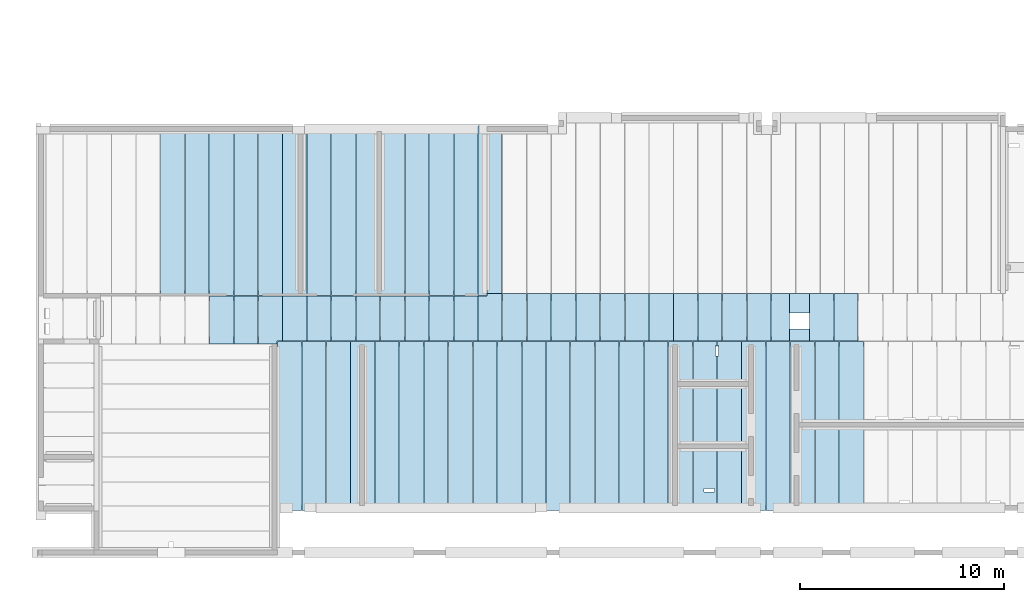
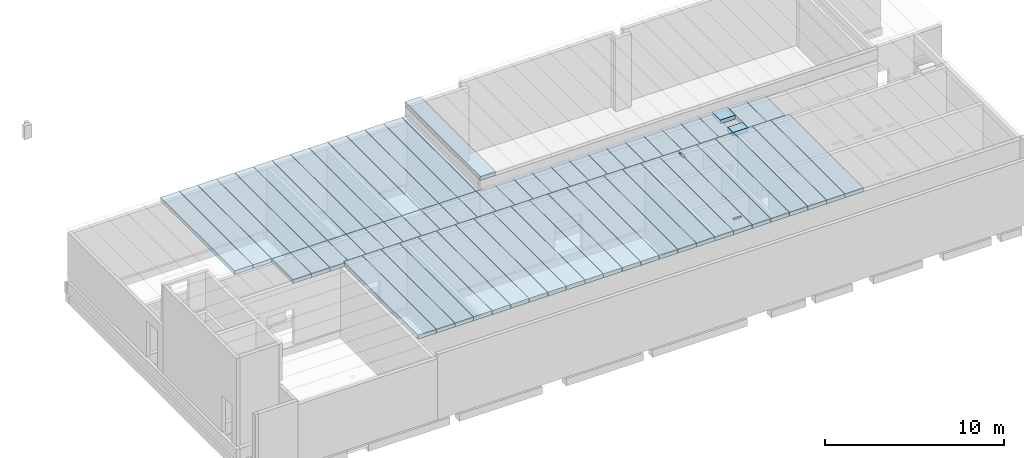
# One storey, part 9 of 24: 67 slabs.
"""IFC2X3 building model written with IfcOpenShell, lengths in metres."""

from ifc_helpers import new_model, entity, si_unit, converted_unit, derived_unit, frame, frame_2d, origin, origin_with_axes, place, context, subcontext, project, spatial, polyline, rectangle, outline, extrude, material, element, save


model = new_model("IFC2X3")

# Units and contexts
model_context = context("Model", 3, precision=1e-05, world=origin())
body_context = subcontext(model_context, "Body", "Model", "MODEL_VIEW")
ifc_project = project(units=[si_unit("LENGTHUNIT", "METRE"), si_unit("AREAUNIT", "SQUARE_METRE"), si_unit("VOLUMEUNIT", "CUBIC_METRE"), si_unit("MASSUNIT", "GRAM", prefix="KILO"), converted_unit("PLANEANGLEUNIT", "DEGREE", entity("IfcPlaneAngleMeasure", 0.0174532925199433), si_unit("PLANEANGLEUNIT", "RADIAN"), dimensions=[0, 0, 0, 0, 0, 0, 0]), derived_unit("THERMALTRANSMITTANCEUNIT", [(si_unit("POWERUNIT", "WATT"), 1), (si_unit("THERMODYNAMICTEMPERATUREUNIT", "KELVIN"), -1), (si_unit("LENGTHUNIT", "METRE"), -2)]), derived_unit("VOLUMETRICFLOWRATEUNIT", [(si_unit("LENGTHUNIT", "METRE"), 3), (converted_unit("TIMEUNIT", "hour", entity("IfcTimeMeasure", 3600.0), si_unit("TIMEUNIT", "SECOND"), dimensions=[0, 0, 1, 0, 0, 0, 0]), -1), (si_unit("LENGTHUNIT", "METRE"), -1)])], contexts=[model_context])

# Site, building, storey
site_placement = place(None, origin())
site = spatial("IfcSite", under=ifc_project, at=site_placement, Name="TWP_Speiseverteilzentrum SBW VZ II", CompositionType="ELEMENT")
building_placement = place(site_placement, origin())
building = spatial("IfcBuilding", under=site, at=building_placement, Name="Speiseverteilzentrum SBW VZ II", CompositionType="ELEMENT")
storey_placement = place(building_placement, frame((0.0, 0.0, 0.6957)))
storey = spatial("IfcBuildingStorey", under=building, at=storey_placement, Name="EG_Technik_FFB", CompositionType="ELEMENT", Elevation=0.6957)

# Slabs
ifc_material_1 = material(Name="Stahlbetonfertigteil")
slab_1_placement = place(storey_placement, frame((99.1000000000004, 40.0899999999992, 4.0)))
element("IfcSlab", 1, at=slab_1_placement, inside=storey, material=ifc_material_1, Name="Spannbetonhohldecke", PredefinedType="FLOOR", context=body_context, shape_type="SweptSolid", body=[
    extrude(rectangle(XDim=2.35, YDim=1.18, at=frame_2d((0.59, -1.175), x_axis=(0.0, -1.0))), frame((0.0, 2.35, 0.0), z_axis=(0.0, 0.0, 1.0), x_axis=(1.0, 0.0, 0.0)), (0.0, 0.0, 1.0), 0.265),
])
ifc_material_2 = material(Name="Stahlbetonfertigteil")
slab_2_placement = place(storey_placement, frame((92.8400000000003, 31.7699999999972, 4.0)))
element("IfcSlab", 2, at=slab_2_placement, inside=storey, material=ifc_material_2, Name="Spannbetonhohldecke", PredefinedType="FLOOR", context=body_context, shape_type="SweptSolid", body=[
    extrude(rectangle(XDim=8.30000000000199, YDim=1.18, at=frame_2d((0.59, -4.150000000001), x_axis=(0.0, -1.0))), frame((0.0, 8.30000000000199, 0.0), z_axis=(0.0, 0.0, 1.0), x_axis=(1.0, 0.0, 0.0)), (0.0, 0.0, 1.0), 0.265),
])
ifc_material_3 = material(Name="Stahlbetonfertigteil")
slab_3_placement = place(storey_placement, frame((90.8800000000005, 42.1999999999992, 5.0)))
element("IfcSlab", 3, at=slab_3_placement, inside=storey, material=ifc_material_3, Name="Spannbetonhohldecke", PredefinedType="FLOOR", context=body_context, shape_type="SweptSolid", body=[
    extrude(rectangle(XDim=8.43000000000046, YDim=0.999999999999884, at=frame_2d((0.499999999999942, -4.21500000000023), x_axis=(0.0, -1.0))), frame((0.0, 8.43000000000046, 0.0), z_axis=(0.0, 0.0, 1.0), x_axis=(1.0, 0.0, 0.0)), (0.0, 0.0, 1.0), 0.265),
])
ifc_material_4 = material(Name="Stahlbetonfertigteil")
slab_4_placement = place(storey_placement, frame((97.9000000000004, 40.0899999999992, 4.0)))
element("IfcSlab", 4, at=slab_4_placement, inside=storey, material=ifc_material_4, Name="Spannbetonhohldecke", PredefinedType="FLOOR", context=body_context, shape_type="SweptSolid", body=[
    extrude(rectangle(XDim=2.35, YDim=1.18, at=frame_2d((0.59, -1.175), x_axis=(0.0, -1.0))), frame((0.0, 2.35, 0.0), z_axis=(0.0, 0.0, 1.0), x_axis=(1.0, 0.0, 0.0)), (0.0, 0.0, 1.0), 0.265),
])
ifc_material_5 = material(Name="Stahlbetonfertigteil")
slab_5_placement = place(storey_placement, frame((78.7000000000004, 39.9599999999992, 4.0)))
element("IfcSlab", 5, at=slab_5_placement, inside=storey, material=ifc_material_5, Name="Spannbetonhohldecke", PredefinedType="FLOOR", context=body_context, shape_type="SweptSolid", body=[
    extrude(rectangle(XDim=2.35, YDim=1.18, at=frame_2d((0.59, -1.175), x_axis=(0.0, -1.0))), frame((0.0, 2.35, 0.0), z_axis=(0.0, 0.0, 1.0), x_axis=(1.0, 0.0, 0.0)), (0.0, 0.0, 1.0), 0.265),
])
ifc_material_6 = material(Name="Stahlbetonfertigteil")
slab_6_placement = place(storey_placement, frame((84.4400000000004, 31.7699999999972, 4.0)))
element("IfcSlab", 6, at=slab_6_placement, inside=storey, material=ifc_material_6, Name="Spannbetonhohldecke", PredefinedType="FLOOR", context=body_context, shape_type="SweptSolid", body=[
    extrude(rectangle(XDim=8.30000000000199, YDim=1.18, at=frame_2d((0.59, -4.150000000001), x_axis=(0.0, -1.0))), frame((0.0, 8.30000000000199, 0.0), z_axis=(0.0, 0.0, 1.0), x_axis=(1.0, 0.0, 0.0)), (0.0, 0.0, 1.0), 0.265),
])
ifc_material_7 = material(Name="Stahlbetonfertigteil")
slab_7_placement = place(storey_placement, frame((82.3000000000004, 40.0899999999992, 4.0)))
element("IfcSlab", 7, at=slab_7_placement, inside=storey, material=ifc_material_7, Name="Spannbetonhohldecke", PredefinedType="FLOOR", context=body_context, shape_type="SweptSolid", body=[
    extrude(rectangle(XDim=2.22, YDim=1.18, at=frame_2d((0.59, -1.11), x_axis=(0.0, -1.0))), frame((0.0, 2.22, 0.0), z_axis=(0.0, 0.0, 1.0), x_axis=(1.0, 0.0, 0.0)), (0.0, 0.0, 1.0), 0.265),
])
ifc_material_8 = material(Name="Stahlbetonfertigteil")
slab_8_placement = place(storey_placement, frame((93.1000000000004, 40.0899999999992, 4.0)))
element("IfcSlab", 8, at=slab_8_placement, inside=storey, material=ifc_material_8, Name="Spannbetonhohldecke", PredefinedType="FLOOR", context=body_context, shape_type="SweptSolid", body=[
    extrude(rectangle(XDim=2.35, YDim=1.18, at=frame_2d((0.59, -1.175), x_axis=(0.0, -1.0))), frame((0.0, 2.35, 0.0), z_axis=(0.0, 0.0, 1.0), x_axis=(1.0, 0.0, 0.0)), (0.0, 0.0, 1.0), 0.265),
])
ifc_material_9 = material(Name="Stahlbetonfertigteil")
slab_9_placement = place(storey_placement, frame((81.1000000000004, 40.0899999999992, 4.0)))
element("IfcSlab", 9, at=slab_9_placement, inside=storey, material=ifc_material_9, Name="Spannbetonhohldecke", PredefinedType="FLOOR", context=body_context, shape_type="SweptSolid", body=[
    extrude(rectangle(XDim=2.22, YDim=1.18, at=frame_2d((0.59, -1.11), x_axis=(0.0, -1.0))), frame((0.0, 2.22, 0.0), z_axis=(0.0, 0.0, 1.0), x_axis=(1.0, 0.0, 0.0)), (0.0, 0.0, 1.0), 0.265),
])
ifc_material_10 = material(Name="Stahlbetonfertigteil")
slab_10_placement = place(storey_placement, frame((83.5000000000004, 40.0899999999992, 4.0)))
element("IfcSlab", 10, at=slab_10_placement, inside=storey, material=ifc_material_10, Name="Spannbetonhohldecke", PredefinedType="FLOOR", context=body_context, shape_type="SweptSolid", body=[
    extrude(rectangle(XDim=2.22, YDim=1.18, at=frame_2d((0.59, -1.11), x_axis=(0.0, -1.0))), frame((0.0, 2.22, 0.0), z_axis=(0.0, 0.0, 1.0), x_axis=(1.0, 0.0, 0.0)), (0.0, 0.0, 1.0), 0.265),
])
ifc_material_11 = material(Name="Stahlbetonfertigteil")
slab_11_placement = place(storey_placement, frame((97.6400000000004, 31.7699999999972, 4.0)))
element("IfcSlab", 11, at=slab_11_placement, inside=storey, material=ifc_material_11, Name="Spannbetonhohldecke", PredefinedType="FLOOR", context=body_context, shape_type="SweptSolid", body=[
    extrude(rectangle(XDim=8.30000000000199, YDim=1.18, at=frame_2d((0.59, -4.150000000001), x_axis=(0.0, -1.0))), frame((0.0, 8.30000000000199, 0.0), z_axis=(0.0, 0.0, 1.0), x_axis=(1.0, 0.0, 0.0)), (0.0, 0.0, 1.0), 0.265),
])
ifc_material_12 = material(Name="Stahlbetonfertigteil")
slab_12_placement = place(storey_placement, frame((90.7000000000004, 42.3299999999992, 4.0)))
element("IfcSlab", 12, at=slab_12_placement, inside=storey, material=ifc_material_12, Name="Spannbetonhohldecke", PredefinedType="FLOOR", context=body_context, shape_type="SweptSolid", body=[
    extrude(rectangle(XDim=8.30000000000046, YDim=0.420000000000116, at=frame_2d((0.210000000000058, -4.15000000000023), x_axis=(0.0, -1.0))), frame((0.0, 8.30000000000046, 0.0), z_axis=(0.0, 0.0, 1.0), x_axis=(1.0, 0.0, 0.0)), (0.0, 0.0, 1.0), 0.265),
])
ifc_material_13 = material(Name="Stahlbetonfertigteil")
slab_13_placement = place(storey_placement, frame((85.6400000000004, 31.7699999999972, 4.0)))
element("IfcSlab", 13, at=slab_13_placement, inside=storey, material=ifc_material_13, Name="Spannbetonhohldecke", PredefinedType="FLOOR", context=body_context, shape_type="SweptSolid", body=[
    extrude(rectangle(XDim=8.30000000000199, YDim=1.18, at=frame_2d((0.59, -4.150000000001), x_axis=(0.0, -1.0))), frame((0.0, 8.30000000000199, 0.0), z_axis=(0.0, 0.0, 1.0), x_axis=(1.0, 0.0, 0.0)), (0.0, 0.0, 1.0), 0.265),
])
ifc_material_14 = material(Name="Stahlbetonfertigteil")
slab_14_placement = place(storey_placement, frame((75.1000000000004, 42.3299999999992, 4.0)))
element("IfcSlab", 14, at=slab_14_placement, inside=storey, material=ifc_material_14, Name="Spannbetonhohldecke", PredefinedType="FLOOR", context=body_context, shape_type="SweptSolid", body=[
    extrude(rectangle(XDim=8.30000000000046, YDim=1.18, at=frame_2d((0.59, -4.15000000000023), x_axis=(0.0, -1.0))), frame((0.0, 8.30000000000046, 0.0), z_axis=(0.0, 0.0, 1.0), x_axis=(1.0, 0.0, 0.0)), (0.0, 0.0, 1.0), 0.265),
])
ifc_material_15 = material(Name="Stahlbetonfertigteil")
slab_15_placement = place(storey_placement, frame((83.5000000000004, 42.3299999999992, 4.0)))
element("IfcSlab", 15, at=slab_15_placement, inside=storey, material=ifc_material_15, Name="Spannbetonhohldecke", PredefinedType="FLOOR", context=body_context, shape_type="SweptSolid", body=[
    extrude(rectangle(XDim=8.30000000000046, YDim=1.18, at=frame_2d((0.59, -4.15000000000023), x_axis=(0.0, -1.0))), frame((0.0, 8.30000000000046, 0.0), z_axis=(0.0, 0.0, 1.0), x_axis=(1.0, 0.0, 0.0)), (0.0, 0.0, 1.0), 0.265),
])
ifc_material_16 = material(Name="Stahlbetonfertigteil")
slab_16_placement = place(storey_placement, frame((96.7000000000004, 40.0899999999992, 4.0)))
element("IfcSlab", 16, at=slab_16_placement, inside=storey, material=ifc_material_16, Name="Spannbetonhohldecke", PredefinedType="FLOOR", context=body_context, shape_type="SweptSolid", body=[
    extrude(rectangle(XDim=2.35, YDim=1.18, at=frame_2d((0.59, -1.175), x_axis=(0.0, -1.0))), frame((0.0, 2.35, 0.0), z_axis=(0.0, 0.0, 1.0), x_axis=(1.0, 0.0, 0.0)), (0.0, 0.0, 1.0), 0.265),
])
ifc_material_17 = material(Name="Stahlbetonfertigteil")
slab_17_placement = place(storey_placement, frame((107.24, 31.7699999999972, 4.0)))
element("IfcSlab", 17, at=slab_17_placement, inside=storey, material=ifc_material_17, Name="Spannbetonhohldecke", PredefinedType="FLOOR", context=body_context, shape_type="SweptSolid", body=[
    extrude(rectangle(XDim=8.30000000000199, YDim=1.18, at=frame_2d((0.59, -4.150000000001), x_axis=(0.0, -1.0))), frame((0.0, 8.30000000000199, 0.0), z_axis=(0.0, 0.0, 1.0), x_axis=(1.0, 0.0, 0.0)), (0.0, 0.0, 1.0), 0.265),
])
ifc_material_18 = material(Name="Stahlbetonfertigteil")
slab_18_placement = place(storey_placement, frame((82.3000000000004, 42.3299999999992, 4.0)))
element("IfcSlab", 18, at=slab_18_placement, inside=storey, material=ifc_material_18, Name="Spannbetonhohldecke", PredefinedType="FLOOR", context=body_context, shape_type="SweptSolid", body=[
    extrude(rectangle(XDim=8.30000000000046, YDim=1.18, at=frame_2d((0.59, -4.15000000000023), x_axis=(0.0, -1.0))), frame((0.0, 8.30000000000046, 0.0), z_axis=(0.0, 0.0, 1.0), x_axis=(1.0, 0.0, 0.0)), (0.0, 0.0, 1.0), 0.265),
])
ifc_material_19 = material(Name="Stahlbetonfertigteil")
slab_19_placement = place(storey_placement, frame((103.64, 31.7699999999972, 4.0)))
element("IfcSlab", 19, at=slab_19_placement, inside=storey, material=ifc_material_19, Name="Spannbetonhohldecke", PredefinedType="FLOOR", context=body_context, shape_type="SweptSolid", body=[
    extrude(rectangle(XDim=8.30000000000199, YDim=1.18, at=frame_2d((0.59, -4.150000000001), x_axis=(0.0, -1.0))), frame((0.0, 8.30000000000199, 0.0), z_axis=(0.0, 0.0, 1.0), x_axis=(1.0, 0.0, 0.0)), (0.0, 0.0, 1.0), 0.265),
])
ifc_material_20 = material(Name="Stahlbetonfertigteil")
slab_20_placement = place(storey_placement, frame((96.4400000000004, 31.7699999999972, 4.0)))
element("IfcSlab", 20, at=slab_20_placement, inside=storey, material=ifc_material_20, Name="Spannbetonhohldecke", PredefinedType="FLOOR", context=body_context, shape_type="SweptSolid", body=[
    extrude(rectangle(XDim=8.30000000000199, YDim=1.18, at=frame_2d((0.59, -4.150000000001), x_axis=(0.0, -1.0))), frame((0.0, 8.30000000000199, 0.0), z_axis=(0.0, 0.0, 1.0), x_axis=(1.0, 0.0, 0.0)), (0.0, 0.0, 1.0), 0.265),
])
ifc_material_21 = material(Name="Stahlbetonfertigteil")
slab_21_placement = place(storey_placement, frame((95.2400000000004, 31.7699999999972, 4.0)))
element("IfcSlab", 21, at=slab_21_placement, inside=storey, material=ifc_material_21, Name="Spannbetonhohldecke", PredefinedType="FLOOR", context=body_context, shape_type="SweptSolid", body=[
    extrude(rectangle(XDim=8.30000000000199, YDim=1.18, at=frame_2d((0.59, -4.150000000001), x_axis=(0.0, -1.0))), frame((0.0, 8.30000000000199, 0.0), z_axis=(0.0, 0.0, 1.0), x_axis=(1.0, 0.0, 0.0)), (0.0, 0.0, 1.0), 0.265),
])
ifc_material_22 = material(Name="Stahlbetonfertigteil")
slab_22_placement = place(storey_placement, frame((87.1000000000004, 40.0899999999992, 4.0)))
element("IfcSlab", 22, at=slab_22_placement, inside=storey, material=ifc_material_22, Name="Spannbetonhohldecke", PredefinedType="FLOOR", context=body_context, shape_type="SweptSolid", body=[
    extrude(rectangle(XDim=2.22, YDim=1.18, at=frame_2d((0.59, -1.11), x_axis=(0.0, -1.0))), frame((0.0, 2.22, 0.0), z_axis=(0.0, 0.0, 1.0), x_axis=(1.0, 0.0, 0.0)), (0.0, 0.0, 1.0), 0.265),
])
ifc_material_23 = material(Name="Stahlbetonfertigteil")
slab_23_placement = place(storey_placement, frame((94.3000000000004, 40.0899999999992, 4.0)))
element("IfcSlab", 23, at=slab_23_placement, inside=storey, material=ifc_material_23, Name="Spannbetonhohldecke", PredefinedType="FLOOR", context=body_context, shape_type="SweptSolid", body=[
    extrude(rectangle(XDim=2.35, YDim=1.18, at=frame_2d((0.59, -1.175), x_axis=(0.0, -1.0))), frame((0.0, 2.35, 0.0), z_axis=(0.0, 0.0, 1.0), x_axis=(1.0, 0.0, 0.0)), (0.0, 0.0, 1.0), 0.265),
])
ifc_material_24 = material(Name="Stahlbetonfertigteil")
slab_24_placement = place(storey_placement, frame((89.2400000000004, 31.7699999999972, 4.0)))
element("IfcSlab", 24, at=slab_24_placement, inside=storey, material=ifc_material_24, Name="Spannbetonhohldecke", PredefinedType="FLOOR", context=body_context, shape_type="SweptSolid", body=[
    extrude(rectangle(XDim=8.30000000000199, YDim=1.18, at=frame_2d((0.59, -4.150000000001), x_axis=(0.0, -1.0))), frame((0.0, 8.30000000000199, 0.0), z_axis=(0.0, 0.0, 1.0), x_axis=(1.0, 0.0, 0.0)), (0.0, 0.0, 1.0), 0.265),
])
ifc_material_25 = material(Name="Stahlbetonfertigteil")
slab_25_placement = place(storey_placement, frame((102.7, 40.0899999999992, 4.0)))
element("IfcSlab", 25, at=slab_25_placement, inside=storey, material=ifc_material_25, Name="Spannbetonhohldecke", PredefinedType="FLOOR", context=body_context, shape_type="SweptSolid", body=[
    extrude(rectangle(XDim=2.35, YDim=1.18, at=frame_2d((0.59, -1.175), x_axis=(0.0, -1.0))), frame((0.0, 2.35, 0.0), z_axis=(0.0, 0.0, 1.0), x_axis=(1.0, 0.0, 0.0)), (0.0, 0.0, 1.0), 0.265),
])
ifc_material_26 = material(Name="Stahlbetonfertigteil")
slab_26_placement = place(storey_placement, frame((77.5000000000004, 42.3299999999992, 4.0)))
element("IfcSlab", 26, at=slab_26_placement, inside=storey, material=ifc_material_26, Name="Spannbetonhohldecke", PredefinedType="FLOOR", context=body_context, shape_type="SweptSolid", body=[
    extrude(rectangle(XDim=8.30000000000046, YDim=1.18, at=frame_2d((0.59, -4.15000000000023), x_axis=(0.0, -1.0))), frame((0.0, 8.30000000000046, 0.0), z_axis=(0.0, 0.0, 1.0), x_axis=(1.0, 0.0, 0.0)), (0.0, 0.0, 1.0), 0.265),
])
ifc_material_27 = material(Name="Stahlbetonfertigteil")
slab_27_placement = place(storey_placement, frame((104.84, 31.7699999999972, 4.0)))
element("IfcSlab", 27, at=slab_27_placement, inside=storey, material=ifc_material_27, Name="Spannbetonhohldecke", PredefinedType="FLOOR", context=body_context, shape_type="SweptSolid", body=[
    extrude(rectangle(XDim=8.30000000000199, YDim=1.18, at=frame_2d((0.59, -4.150000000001), x_axis=(0.0, -1.0))), frame((0.0, 8.30000000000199, 0.0), z_axis=(0.0, 0.0, 1.0), x_axis=(1.0, 0.0, 0.0)), (0.0, 0.0, 1.0), 0.265),
])
ifc_material_28 = material(Name="Stahlbetonfertigteil")
slab_28_placement = place(storey_placement, frame((88.3000000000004, 42.3299999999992, 4.0)))
element("IfcSlab", 28, at=slab_28_placement, inside=storey, material=ifc_material_28, Name="Spannbetonhohldecke", PredefinedType="FLOOR", context=body_context, shape_type="SweptSolid", body=[
    extrude(rectangle(XDim=8.30000000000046, YDim=1.18, at=frame_2d((0.59, -4.15000000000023), x_axis=(0.0, -1.0))), frame((0.0, 8.30000000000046, 0.0), z_axis=(0.0, 0.0, 1.0), x_axis=(1.0, 0.0, 0.0)), (0.0, 0.0, 1.0), 0.265),
])
ifc_material_29 = material(Name="Stahlbetonfertigteil")
slab_29_placement = place(storey_placement, frame((98.8400000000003, 31.7699999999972, 4.0)))
element("IfcSlab", 29, at=slab_29_placement, inside=storey, material=ifc_material_29, Name="Spannbetonhohldecke", PredefinedType="FLOOR", context=body_context, shape_type="SweptSolid", body=[
    extrude(rectangle(XDim=8.30000000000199, YDim=1.18, at=frame_2d((0.59, -4.150000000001), x_axis=(0.0, -1.0))), frame((0.0, 8.30000000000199, 0.0), z_axis=(0.0, 0.0, 1.0), x_axis=(1.0, 0.0, 0.0)), (0.0, 0.0, 1.0), 0.265),
])
ifc_material_30 = material(Name="Stahlbetonfertigteil")
slab_30_placement = place(storey_placement, frame((81.1000000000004, 42.3299999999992, 4.0)))
element("IfcSlab", 30, at=slab_30_placement, inside=storey, material=ifc_material_30, Name="Spannbetonhohldecke", PredefinedType="FLOOR", context=body_context, shape_type="SweptSolid", body=[
    extrude(rectangle(XDim=8.30000000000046, YDim=1.18, at=frame_2d((0.59, -4.15000000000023), x_axis=(0.0, -1.0))), frame((0.0, 8.30000000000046, 0.0), z_axis=(0.0, 0.0, 1.0), x_axis=(1.0, 0.0, 0.0)), (0.0, 0.0, 1.0), 0.265),
])
ifc_material_31 = material(Name="Stahlbetonfertigteil")
slab_31_placement = place(storey_placement, frame((95.5000000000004, 40.0899999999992, 4.0)))
element("IfcSlab", 31, at=slab_31_placement, inside=storey, material=ifc_material_31, Name="Spannbetonhohldecke", PredefinedType="FLOOR", context=body_context, shape_type="SweptSolid", body=[
    extrude(rectangle(XDim=2.35, YDim=1.18, at=frame_2d((0.59, -1.175), x_axis=(0.0, -1.0))), frame((0.0, 2.35, 0.0), z_axis=(0.0, 0.0, 1.0), x_axis=(1.0, 0.0, 0.0)), (0.0, 0.0, 1.0), 0.265),
])
ifc_material_32 = material(Name="Stahlbetonfertigteil")
slab_32_placement = place(storey_placement, frame((91.9000000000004, 40.0899999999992, 4.0)))
element("IfcSlab", 32, at=slab_32_placement, inside=storey, material=ifc_material_32, Name="Spannbetonhohldecke", PredefinedType="FLOOR", context=body_context, shape_type="SweptSolid", body=[
    extrude(rectangle(XDim=2.35, YDim=1.18, at=frame_2d((0.59, -1.175), x_axis=(0.0, -1.0))), frame((0.0, 2.35, 0.0), z_axis=(0.0, 0.0, 1.0), x_axis=(1.0, 0.0, 0.0)), (0.0, 0.0, 1.0), 0.265),
])
ifc_material_33 = material(Name="Stahlbetonfertigteil")
slab_33_placement = place(storey_placement, frame((79.9000000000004, 39.9599999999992, 4.0)))
element("IfcSlab", 33, at=slab_33_placement, inside=storey, material=ifc_material_33, Name="Spannbetonhohldecke", PredefinedType="FLOOR", context=body_context, shape_type="SweptSolid", body=[
    extrude(outline(polyline([(0.0, 2.35), (0.0, 0.0), (0.919999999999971, 0.0), (0.919999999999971, 0.13), (1.18, 0.13), (1.18, 2.35), (0.0, 2.35)])), origin_with_axes(), (0.0, 0.0, 1.0), 0.265),
])
ifc_material_34 = material(Name="Stahlbetonfertigteil")
slab_34_placement = place(storey_placement, frame((86.8400000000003, 31.7699999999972, 4.0)))
element("IfcSlab", 34, at=slab_34_placement, inside=storey, material=ifc_material_34, Name="Spannbetonhohldecke", PredefinedType="FLOOR", context=body_context, shape_type="SweptSolid", body=[
    extrude(rectangle(XDim=8.30000000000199, YDim=1.18, at=frame_2d((0.59, -4.150000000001), x_axis=(0.0, -1.0))), frame((0.0, 8.30000000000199, 0.0), z_axis=(0.0, 0.0, 1.0), x_axis=(1.0, 0.0, 0.0)), (0.0, 0.0, 1.0), 0.265),
])
ifc_material_35 = material(Name="Stahlbetonfertigteil")
slab_35_placement = place(storey_placement, frame((101.5, 40.0899999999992, 4.0)))
element("IfcSlab", 35, at=slab_35_placement, inside=storey, material=ifc_material_35, Name="Spannbetonhohldecke", PredefinedType="FLOOR", context=body_context, shape_type="SweptSolid", body=[
    extrude(rectangle(XDim=2.35, YDim=1.18, at=frame_2d((0.59, -1.175), x_axis=(0.0, -1.0))), frame((0.0, 2.35, 0.0), z_axis=(0.0, 0.0, 1.0), x_axis=(1.0, 0.0, 0.0)), (0.0, 0.0, 1.0), 0.265),
])
ifc_material_36 = material(Name="Stahlbetonfertigteil")
slab_36_placement = place(storey_placement, frame((90.7000000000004, 40.0899999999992, 4.0)))
element("IfcSlab", 36, at=slab_36_placement, inside=storey, material=ifc_material_36, Name="Spannbetonhohldecke", PredefinedType="FLOOR", context=body_context, shape_type="SweptSolid", body=[
    extrude(outline(polyline([(0.440000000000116, 2.35), (0.440000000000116, 2.22), (0.0, 2.22), (0.0, 0.0), (1.18, 0.0), (1.18, 2.35), (0.440000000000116, 2.35)])), origin_with_axes(), (0.0, 0.0, 1.0), 0.265),
])
ifc_material_37 = material(Name="Stahlbetonfertigteil")
slab_37_placement = place(storey_placement, frame((83.2400000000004, 31.7699999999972, 4.0)))
element("IfcSlab", 37, at=slab_37_placement, inside=storey, material=ifc_material_37, Name="Spannbetonhohldecke", PredefinedType="FLOOR", context=body_context, shape_type="SweptSolid", body=[
    extrude(rectangle(XDim=8.30000000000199, YDim=1.18, at=frame_2d((0.59, -4.150000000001), x_axis=(0.0, -1.0))), frame((0.0, 8.30000000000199, 0.0), z_axis=(0.0, 0.0, 1.0), x_axis=(1.0, 0.0, 0.0)), (0.0, 0.0, 1.0), 0.265),
])
ifc_material_38 = material(Name="Stahlbetonfertigteil")
slab_38_placement = place(storey_placement, frame((77.5000000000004, 39.9599999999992, 4.0)))
element("IfcSlab", 38, at=slab_38_placement, inside=storey, material=ifc_material_38, Name="Spannbetonhohldecke", PredefinedType="FLOOR", context=body_context, shape_type="SweptSolid", body=[
    extrude(rectangle(XDim=2.35, YDim=1.18, at=frame_2d((0.59, -1.175), x_axis=(0.0, -1.0))), frame((0.0, 2.35, 0.0), z_axis=(0.0, 0.0, 1.0), x_axis=(1.0, 0.0, 0.0)), (0.0, 0.0, 1.0), 0.265),
])
ifc_material_39 = material(Name="Stahlbetonfertigteil")
slab_39_placement = place(storey_placement, frame((103.9, 40.0899999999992, 4.0)))
element("IfcSlab", 39, at=slab_39_placement, inside=storey, material=ifc_material_39, Name="Spannbetonhohldecke", PredefinedType="FLOOR", context=body_context, shape_type="SweptSolid", body=[
    extrude(rectangle(XDim=2.35, YDim=1.18, at=frame_2d((0.59, -1.175), x_axis=(0.0, -1.0))), frame((0.0, 2.35, 0.0), z_axis=(0.0, 0.0, 1.0), x_axis=(1.0, 0.0, 0.0)), (0.0, 0.0, 1.0), 0.265),
])
ifc_material_40 = material(Name="Stahlbetonfertigteil")
slab_40_placement = place(storey_placement, frame((84.7000000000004, 42.3299999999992, 4.0)))
element("IfcSlab", 40, at=slab_40_placement, inside=storey, material=ifc_material_40, Name="Spannbetonhohldecke", PredefinedType="FLOOR", context=body_context, shape_type="SweptSolid", body=[
    extrude(rectangle(XDim=8.30000000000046, YDim=1.18, at=frame_2d((0.59, -4.15000000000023), x_axis=(0.0, -1.0))), frame((0.0, 8.30000000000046, 0.0), z_axis=(0.0, 0.0, 1.0), x_axis=(1.0, 0.0, 0.0)), (0.0, 0.0, 1.0), 0.265),
])
ifc_material_41 = material(Name="Stahlbetonfertigteil")
slab_41_placement = place(storey_placement, frame((91.6400000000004, 31.7699999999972, 4.0)))
element("IfcSlab", 41, at=slab_41_placement, inside=storey, material=ifc_material_41, Name="Spannbetonhohldecke", PredefinedType="FLOOR", context=body_context, shape_type="SweptSolid", body=[
    extrude(rectangle(XDim=8.30000000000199, YDim=1.18, at=frame_2d((0.59, -4.150000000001), x_axis=(0.0, -1.0))), frame((0.0, 8.30000000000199, 0.0), z_axis=(0.0, 0.0, 1.0), x_axis=(1.0, 0.0, 0.0)), (0.0, 0.0, 1.0), 0.265),
])
ifc_material_42 = material(Name="Stahlbetonfertigteil")
slab_42_placement = place(storey_placement, frame((87.1000000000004, 42.3299999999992, 4.0)))
element("IfcSlab", 42, at=slab_42_placement, inside=storey, material=ifc_material_42, Name="Spannbetonhohldecke", PredefinedType="FLOOR", context=body_context, shape_type="SweptSolid", body=[
    extrude(rectangle(XDim=8.30000000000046, YDim=1.18, at=frame_2d((0.59, -4.15000000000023), x_axis=(0.0, -1.0))), frame((0.0, 8.30000000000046, 0.0), z_axis=(0.0, 0.0, 1.0), x_axis=(1.0, 0.0, 0.0)), (0.0, 0.0, 1.0), 0.265),
])
ifc_material_43 = material(Name="Stahlbetonfertigteil")
slab_43_placement = place(storey_placement, frame((76.3000000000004, 42.3299999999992, 4.0)))
element("IfcSlab", 43, at=slab_43_placement, inside=storey, material=ifc_material_43, Name="Spannbetonhohldecke", PredefinedType="FLOOR", context=body_context, shape_type="SweptSolid", body=[
    extrude(rectangle(XDim=8.30000000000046, YDim=1.18, at=frame_2d((0.59, -4.15000000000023), x_axis=(0.0, -1.0))), frame((0.0, 8.30000000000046, 0.0), z_axis=(0.0, 0.0, 1.0), x_axis=(1.0, 0.0, 0.0)), (0.0, 0.0, 1.0), 0.265),
])
ifc_material_44 = material(Name="Stahlbetonfertigteil")
slab_44_placement = place(storey_placement, frame((84.7000000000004, 40.0899999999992, 4.0)))
element("IfcSlab", 44, at=slab_44_placement, inside=storey, material=ifc_material_44, Name="Spannbetonhohldecke", PredefinedType="FLOOR", context=body_context, shape_type="SweptSolid", body=[
    extrude(rectangle(XDim=2.22, YDim=1.18, at=frame_2d((0.59, -1.11), x_axis=(0.0, -1.0))), frame((0.0, 2.22, 0.0), z_axis=(0.0, 0.0, 1.0), x_axis=(1.0, 0.0, 0.0)), (0.0, 0.0, 1.0), 0.265),
])
ifc_material_45 = material(Name="Stahlbetonfertigteil")
slab_45_placement = place(storey_placement, frame((79.9000000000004, 42.3299999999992, 4.0)))
element("IfcSlab", 45, at=slab_45_placement, inside=storey, material=ifc_material_45, Name="Spannbetonhohldecke", PredefinedType="FLOOR", context=body_context, shape_type="SweptSolid", body=[
    extrude(rectangle(XDim=8.30000000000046, YDim=1.18, at=frame_2d((0.59, -4.15000000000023), x_axis=(0.0, -1.0))), frame((0.0, 8.30000000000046, 0.0), z_axis=(0.0, 0.0, 1.0), x_axis=(1.0, 0.0, 0.0)), (0.0, 0.0, 1.0), 0.265),
])
ifc_material_46 = material(Name="Stahlbetonfertigteil")
slab_46_placement = place(storey_placement, frame((85.9000000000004, 40.0899999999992, 4.0)))
element("IfcSlab", 46, at=slab_46_placement, inside=storey, material=ifc_material_46, Name="Spannbetonhohldecke", PredefinedType="FLOOR", context=body_context, shape_type="SweptSolid", body=[
    extrude(rectangle(XDim=2.22, YDim=1.18, at=frame_2d((0.59, -1.11), x_axis=(0.0, -1.0))), frame((0.0, 2.22, 0.0), z_axis=(0.0, 0.0, 1.0), x_axis=(1.0, 0.0, 0.0)), (0.0, 0.0, 1.0), 0.265),
])
ifc_material_47 = material(Name="Stahlbetonfertigteil")
slab_47_placement = place(storey_placement, frame((85.9000000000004, 42.3299999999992, 4.0)))
element("IfcSlab", 47, at=slab_47_placement, inside=storey, material=ifc_material_47, Name="Spannbetonhohldecke", PredefinedType="FLOOR", context=body_context, shape_type="SweptSolid", body=[
    extrude(rectangle(XDim=8.30000000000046, YDim=1.18, at=frame_2d((0.59, -4.15000000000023), x_axis=(0.0, -1.0))), frame((0.0, 8.30000000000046, 0.0), z_axis=(0.0, 0.0, 1.0), x_axis=(1.0, 0.0, 0.0)), (0.0, 0.0, 1.0), 0.265),
])
ifc_material_48 = material(Name="Stahlbetonfertigteil")
slab_48_placement = place(storey_placement, frame((80.8400000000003, 31.7699999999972, 4.0)))
element("IfcSlab", 48, at=slab_48_placement, inside=storey, material=ifc_material_48, Name="Spannbetonhohldecke", PredefinedType="FLOOR", context=body_context, shape_type="SweptSolid", body=[
    extrude(rectangle(XDim=8.30000000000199, YDim=1.18, at=frame_2d((0.59, -4.150000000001), x_axis=(0.0, -1.0))), frame((0.0, 8.30000000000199, 0.0), z_axis=(0.0, 0.0, 1.0), x_axis=(1.0, 0.0, 0.0)), (0.0, 0.0, 1.0), 0.265),
])
ifc_material_49 = material(Name="Stahlbetonfertigteil")
slab_49_placement = place(storey_placement, frame((89.5000000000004, 42.3299999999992, 4.0)))
element("IfcSlab", 49, at=slab_49_placement, inside=storey, material=ifc_material_49, Name="Spannbetonhohldecke", PredefinedType="FLOOR", context=body_context, shape_type="SweptSolid", body=[
    extrude(rectangle(XDim=8.30000000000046, YDim=1.18, at=frame_2d((0.59, -4.15000000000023), x_axis=(0.0, -1.0))), frame((0.0, 8.30000000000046, 0.0), z_axis=(0.0, 0.0, 1.0), x_axis=(1.0, 0.0, 0.0)), (0.0, 0.0, 1.0), 0.265),
])
ifc_material_50 = material(Name="Stahlbetonfertigteil")
slab_50_placement = place(storey_placement, frame((101.24, 31.7699999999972, 4.0)))
element("IfcSlab", 50, at=slab_50_placement, inside=storey, material=ifc_material_50, Name="Spannbetonhohldecke", PredefinedType="FLOOR", context=body_context, shape_type="SweptSolid", body=[
    extrude(outline(polyline([(1.18, 7.60252232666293), (1.11073867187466, 7.60252232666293), (1.11073867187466, 8.10252436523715), (1.18, 8.10252436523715), (1.18, 8.30000000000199), (0.0, 8.30000000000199), (0.0, 0.0), (1.18, 0.0), (1.18, 7.60252232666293)]), holes=[polyline([(1.05803491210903, 1.08322955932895), (1.05803491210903, 0.92322769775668), (0.558037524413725, 0.92322769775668), (0.558037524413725, 1.08322955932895), (1.05803491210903, 1.08322955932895)])]), origin_with_axes(), (0.0, 0.0, 1.0), 0.265),
])
ifc_material_51 = material(Name="Stahlbetonfertigteil")
slab_51_placement = place(storey_placement, frame((102.44, 31.7699999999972, 4.0)))
element("IfcSlab", 51, at=slab_51_placement, inside=storey, material=ifc_material_51, Name="Spannbetonhohldecke", PredefinedType="FLOOR", context=body_context, shape_type="SweptSolid", body=[
    extrude(outline(polyline([(0.0, 8.10252436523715), (0.0707382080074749, 8.10252436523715), (0.0707382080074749, 7.60252232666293), (0.0, 7.60252232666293), (0.0, 0.0), (1.18, 0.0), (1.18, 8.30000000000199), (0.0, 8.30000000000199), (0.0, 8.10252436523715)])), origin_with_axes(), (0.0, 0.0, 1.0), 0.265),
])
ifc_material_52 = material(Name="Stahlbetonfertigteil")
slab_52_placement = place(storey_placement, frame((89.5000000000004, 40.0899999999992, 4.0)))
element("IfcSlab", 52, at=slab_52_placement, inside=storey, material=ifc_material_52, Name="Spannbetonhohldecke", PredefinedType="FLOOR", context=body_context, shape_type="SweptSolid", body=[
    extrude(rectangle(XDim=2.22, YDim=1.18, at=frame_2d((0.59, -1.11), x_axis=(0.0, -1.0))), frame((0.0, 2.22, 0.0), z_axis=(0.0, 0.0, 1.0), x_axis=(1.0, 0.0, 0.0)), (0.0, 0.0, 1.0), 0.265),
])
ifc_material_53 = material(Name="Stahlbetonfertigteil")
slab_53_placement = place(storey_placement, frame((108.44, 31.7699999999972, 4.0)))
element("IfcSlab", 53, at=slab_53_placement, inside=storey, material=ifc_material_53, Name="Spannbetonhohldecke", PredefinedType="FLOOR", context=body_context, shape_type="SweptSolid", body=[
    extrude(rectangle(XDim=8.30000000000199, YDim=1.18, at=frame_2d((0.59, -4.150000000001), x_axis=(0.0, -1.0))), frame((0.0, 8.30000000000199, 0.0), z_axis=(0.0, 0.0, 1.0), x_axis=(1.0, 0.0, 0.0)), (0.0, 0.0, 1.0), 0.265),
])
ifc_material_54 = material(Name="Stahlbetonfertigteil")
slab_54_placement = place(storey_placement, frame((106.04, 31.7699999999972, 4.0)))
element("IfcSlab", 54, at=slab_54_placement, inside=storey, material=ifc_material_54, Name="Spannbetonhohldecke", PredefinedType="FLOOR", context=body_context, shape_type="SweptSolid", body=[
    extrude(rectangle(XDim=8.30000000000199, YDim=1.18, at=frame_2d((0.59, -4.150000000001), x_axis=(0.0, -1.0))), frame((0.0, 8.30000000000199, 0.0), z_axis=(0.0, 0.0, 1.0), x_axis=(1.0, 0.0, 0.0)), (0.0, 0.0, 1.0), 0.265),
])
ifc_material_55 = material(Name="Stahlbetonfertigteil")
slab_55_placement = place(storey_placement, frame((100.3, 40.0899999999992, 4.0)))
element("IfcSlab", 55, at=slab_55_placement, inside=storey, material=ifc_material_55, Name="Spannbetonhohldecke", PredefinedType="FLOOR", context=body_context, shape_type="SweptSolid", body=[
    extrude(rectangle(XDim=2.35, YDim=1.18, at=frame_2d((0.59, -1.175), x_axis=(0.0, -1.0))), frame((0.0, 2.35, 0.0), z_axis=(0.0, 0.0, 1.0), x_axis=(1.0, 0.0, 0.0)), (0.0, 0.0, 1.0), 0.265),
])
ifc_material_56 = material(Name="Stahlbetonfertigteil")
slab_56_placement = place(storey_placement, frame((94.0400000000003, 31.7699999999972, 4.0)))
element("IfcSlab", 56, at=slab_56_placement, inside=storey, material=ifc_material_56, Name="Spannbetonhohldecke", PredefinedType="FLOOR", context=body_context, shape_type="SweptSolid", body=[
    extrude(rectangle(XDim=8.30000000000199, YDim=1.18, at=frame_2d((0.59, -4.150000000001), x_axis=(0.0, -1.0))), frame((0.0, 8.30000000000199, 0.0), z_axis=(0.0, 0.0, 1.0), x_axis=(1.0, 0.0, 0.0)), (0.0, 0.0, 1.0), 0.265),
])
ifc_material_57 = material(Name="Stahlbetonfertigteil")
slab_57_placement = place(storey_placement, frame((88.0400000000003, 31.7699999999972, 4.0)))
element("IfcSlab", 57, at=slab_57_placement, inside=storey, material=ifc_material_57, Name="Spannbetonhohldecke", PredefinedType="FLOOR", context=body_context, shape_type="SweptSolid", body=[
    extrude(rectangle(XDim=8.30000000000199, YDim=1.18, at=frame_2d((0.59, -4.150000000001), x_axis=(0.0, -1.0))), frame((0.0, 8.30000000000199, 0.0), z_axis=(0.0, 0.0, 1.0), x_axis=(1.0, 0.0, 0.0)), (0.0, 0.0, 1.0), 0.265),
])
ifc_material_58 = material(Name="Stahlbetonfertigteil")
slab_58_placement = place(storey_placement, frame((90.4400000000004, 31.7699999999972, 4.0)))
element("IfcSlab", 58, at=slab_58_placement, inside=storey, material=ifc_material_58, Name="Spannbetonhohldecke", PredefinedType="FLOOR", context=body_context, shape_type="SweptSolid", body=[
    extrude(rectangle(XDim=8.30000000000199, YDim=1.18, at=frame_2d((0.59, -4.150000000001), x_axis=(0.0, -1.0))), frame((0.0, 8.30000000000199, 0.0), z_axis=(0.0, 0.0, 1.0), x_axis=(1.0, 0.0, 0.0)), (0.0, 0.0, 1.0), 0.265),
])
ifc_material_59 = material(Name="Stahlbetonfertigteil")
slab_59_placement = place(storey_placement, frame((88.3000000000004, 40.0899999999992, 4.0)))
element("IfcSlab", 59, at=slab_59_placement, inside=storey, material=ifc_material_59, Name="Spannbetonhohldecke", PredefinedType="FLOOR", context=body_context, shape_type="SweptSolid", body=[
    extrude(rectangle(XDim=2.22, YDim=1.18, at=frame_2d((0.59, -1.11), x_axis=(0.0, -1.0))), frame((0.0, 2.22, 0.0), z_axis=(0.0, 0.0, 1.0), x_axis=(1.0, 0.0, 0.0)), (0.0, 0.0, 1.0), 0.265),
])
ifc_material_60 = material(Name="Stahlbetonfertigteil")
slab_60_placement = place(storey_placement, frame((82.0400000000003, 31.7699999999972, 4.0)))
element("IfcSlab", 60, at=slab_60_placement, inside=storey, material=ifc_material_60, Name="Spannbetonhohldecke", PredefinedType="FLOOR", context=body_context, shape_type="SweptSolid", body=[
    extrude(rectangle(XDim=8.30000000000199, YDim=1.18, at=frame_2d((0.59, -4.150000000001), x_axis=(0.0, -1.0))), frame((0.0, 8.30000000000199, 0.0), z_axis=(0.0, 0.0, 1.0), x_axis=(1.0, 0.0, 0.0)), (0.0, 0.0, 1.0), 0.265),
])
ifc_material_61 = material(Name="Stahlbetonfertigteil")
slab_61_placement = place(storey_placement, frame((78.7000000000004, 42.3299999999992, 4.0)))
element("IfcSlab", 61, at=slab_61_placement, inside=storey, material=ifc_material_61, Name="Spannbetonhohldecke", PredefinedType="FLOOR", context=body_context, shape_type="SweptSolid", body=[
    extrude(rectangle(XDim=8.30000000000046, YDim=1.18, at=frame_2d((0.59, -4.15000000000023), x_axis=(0.0, -1.0))), frame((0.0, 8.30000000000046, 0.0), z_axis=(0.0, 0.0, 1.0), x_axis=(1.0, 0.0, 0.0)), (0.0, 0.0, 1.0), 0.265),
])
ifc_material_62 = material(Name="Stahlbetonfertigteil")
slab_62_placement = place(storey_placement, frame((100.04, 31.7699999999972, 4.0)))
element("IfcSlab", 62, at=slab_62_placement, inside=storey, material=ifc_material_62, Name="Spannbetonhohldecke", PredefinedType="FLOOR", context=body_context, shape_type="SweptSolid", body=[
    extrude(rectangle(XDim=8.30000000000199, YDim=1.18, at=frame_2d((0.59, -4.150000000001), x_axis=(0.0, -1.0))), frame((0.0, 8.30000000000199, 0.0), z_axis=(0.0, 0.0, 1.0), x_axis=(1.0, 0.0, 0.0)), (0.0, 0.0, 1.0), 0.265),
])
ifc_material_63 = material(Name="Stahlbetonfertigteil")
slab_63_placement = place(storey_placement, frame((105.1, 40.0899999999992, 4.0)))
element("IfcSlab", 63, at=slab_63_placement, inside=storey, material=ifc_material_63, Name="Spannbetonhohldecke", PredefinedType="FLOOR", context=body_context, shape_type="SweptSolid", body=[
    extrude(rectangle(XDim=2.35, YDim=0.879999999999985, at=frame_2d((-0.439999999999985, 1.175), x_axis=(0.0, 1.0))), frame((0.879999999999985, 0.0, 0.0), z_axis=(0.0, 0.0, 1.0), x_axis=(1.0, 0.0, 0.0)), (0.0, 0.0, 1.0), 0.265),
])
ifc_material_64 = material(Name="Stahlbetonfertigteil")
slab_64_placement = place(storey_placement, frame((106.0, 40.0899999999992, 4.0)))
element("IfcSlab", 64, at=slab_64_placement, inside=storey, material=ifc_material_64, Name="Spannbetonhohldecke", PredefinedType="FLOOR", context=body_context, shape_type="SweptSolid", body=[
    extrude(rectangle(XDim=0.594999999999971, YDim=0.959999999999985, at=frame_2d((0.479999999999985, -0.297499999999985), x_axis=(0.0, -1.0))), frame((0.0, 0.594999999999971, 0.0), z_axis=(0.0, 0.0, 1.0), x_axis=(1.0, 0.0, 0.0)), (0.0, 0.0, 1.0), 0.265),
])
ifc_material_65 = material(Name="Stahlbetonfertigteil")
slab_65_placement = place(storey_placement, frame((106.0, 41.4849999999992, 4.0)))
element("IfcSlab", 65, at=slab_65_placement, inside=storey, material=ifc_material_65, Name="Spannbetonhohldecke", PredefinedType="FLOOR", context=body_context, shape_type="SweptSolid", body=[
    extrude(rectangle(XDim=0.955000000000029, YDim=0.959999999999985, at=frame_2d((0.479999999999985, -0.477500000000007), x_axis=(0.0, -1.0))), frame((0.0, 0.955000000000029, 0.0), z_axis=(0.0, 0.0, 1.0), x_axis=(1.0, 0.0, 0.0)), (0.0, 0.0, 1.0), 0.265),
])
ifc_material_66 = material(Name="Stahlbetonfertigteil")
slab_66_placement = place(storey_placement, frame((108.18, 40.0899999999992, 4.0)))
element("IfcSlab", 66, at=slab_66_placement, inside=storey, material=ifc_material_66, Name="Spannbetonhohldecke", PredefinedType="FLOOR", context=body_context, shape_type="SweptSolid", body=[
    extrude(rectangle(XDim=2.35, YDim=1.18, at=frame_2d((0.59, -1.175), x_axis=(0.0, -1.0))), frame((0.0, 2.35, 0.0), z_axis=(0.0, 0.0, 1.0), x_axis=(1.0, 0.0, 0.0)), (0.0, 0.0, 1.0), 0.265),
])
ifc_material_67 = material(Name="Stahlbetonfertigteil")
slab_67_placement = place(storey_placement, frame((106.98, 40.0899999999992, 4.0)))
element("IfcSlab", 67, at=slab_67_placement, inside=storey, material=ifc_material_67, Name="Spannbetonhohldecke", PredefinedType="FLOOR", context=body_context, shape_type="SweptSolid", body=[
    extrude(rectangle(XDim=2.35, YDim=1.18, at=frame_2d((0.59, -1.175), x_axis=(0.0, -1.0))), frame((0.0, 2.35, 0.0), z_axis=(0.0, 0.0, 1.0), x_axis=(1.0, 0.0, 0.0)), (0.0, 0.0, 1.0), 0.265),
])

save(model, "model.ifc")
